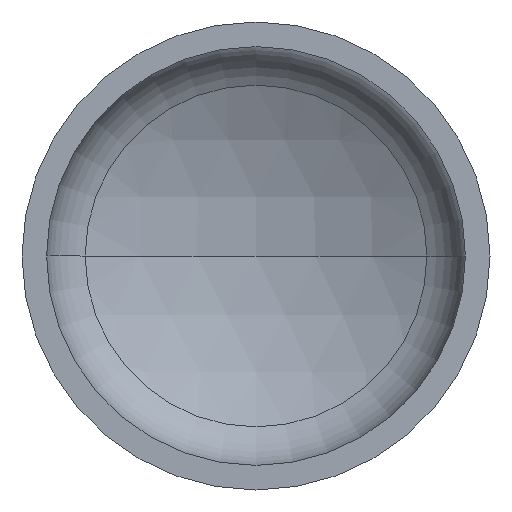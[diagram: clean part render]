
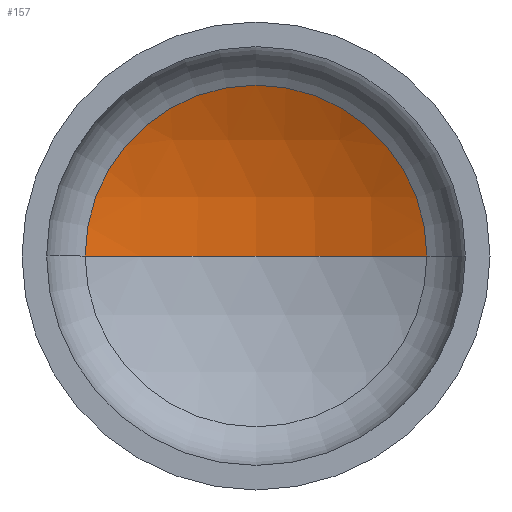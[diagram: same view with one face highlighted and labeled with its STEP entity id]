
A CAD part, front view. The second image highlights one B-rep face of the part: STEP entity #157.
In plain terms, the highlighted spherical face has radius 254 mm.
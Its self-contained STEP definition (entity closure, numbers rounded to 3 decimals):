
#21 = ORIENTED_EDGE ( 'NONE', *, *, #143, .T. ) ;
#37 = VERTEX_POINT ( 'NONE', #203 ) ;
#42 = AXIS2_PLACEMENT_3D ( 'NONE', #247, #243, #375 ) ;
#44 = VERTEX_POINT ( 'NONE', #182 ) ;
#48 = AXIS2_PLACEMENT_3D ( 'NONE', #235, #167, #357 ) ;
#53 = EDGE_LOOP ( 'NONE', ( #64, #63, #21 ) ) ;
#55 = AXIS2_PLACEMENT_3D ( 'NONE', #238, #237, #236 ) ;
#57 = AXIS2_PLACEMENT_3D ( 'NONE', #255, #254, #244 ) ;
#63 = ORIENTED_EDGE ( 'NONE', *, *, #146, .T. ) ;
#64 = ORIENTED_EDGE ( 'NONE', *, *, #147, .F. ) ;
#76 = VERTEX_POINT ( 'NONE', #376 ) ;
#143 = EDGE_CURVE ( 'NONE', #37, #76, #372, .T. ) ;
#146 = EDGE_CURVE ( 'NONE', #44, #37, #304, .T. ) ;
#147 = EDGE_CURVE ( 'NONE', #44, #76, #172, .T. ) ;
#157 = ADVANCED_FACE ( 'NONE', ( #241 ), #366, .F. ) ;
#167 = DIRECTION ( 'NONE',  ( 0., 0., 1. ) ) ;
#172 = CIRCLE ( 'NONE', #48, 254. ) ;
#182 = CARTESIAN_POINT ( 'NONE',  ( 0., 128.444, 0. ) ) ;
#203 = CARTESIAN_POINT ( 'NONE',  ( 118.222, 99.254, 0. ) ) ;
#235 = CARTESIAN_POINT ( 'NONE',  ( 0., -125.556, 0. ) ) ;
#236 = DIRECTION ( 'NONE',  ( -1., 0., 0. ) ) ;
#237 = DIRECTION ( 'NONE',  ( 0., 0., -1. ) ) ;
#238 = CARTESIAN_POINT ( 'NONE',  ( 0., -125.556, 0. ) ) ;
#241 = FACE_OUTER_BOUND ( 'NONE', #53, .T. ) ;
#243 = DIRECTION ( 'NONE',  ( 0., 0., -1. ) ) ;
#244 = DIRECTION ( 'NONE',  ( 1., 0., 0. ) ) ;
#247 = CARTESIAN_POINT ( 'NONE',  ( 0., -125.556, 0. ) ) ;
#254 = DIRECTION ( 'NONE',  ( 0., -1., 0. ) ) ;
#255 = CARTESIAN_POINT ( 'NONE',  ( 0., 99.254, 0. ) ) ;
#304 = CIRCLE ( 'NONE', #55, 254. ) ;
#357 = DIRECTION ( 'NONE',  ( 1., 0., 0. ) ) ;
#366 = SPHERICAL_SURFACE ( 'NONE', #42, 254. ) ;
#372 = CIRCLE ( 'NONE', #57, 118.222 ) ;
#375 = DIRECTION ( 'NONE',  ( -1., 0., 0. ) ) ;
#376 = CARTESIAN_POINT ( 'NONE',  ( -118.222, 99.254, 0. ) ) ;
